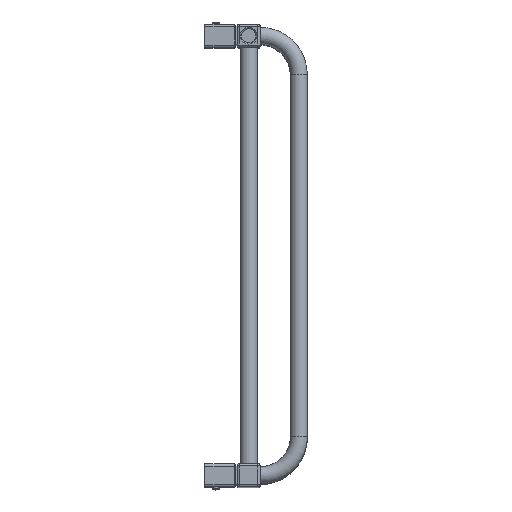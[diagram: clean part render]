
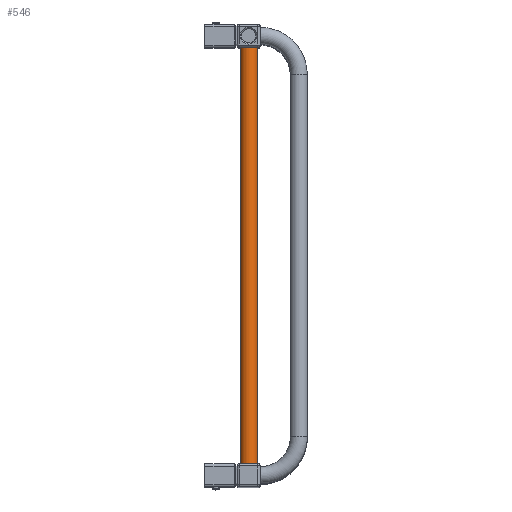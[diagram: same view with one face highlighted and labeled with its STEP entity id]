
A CAD part, top view. The second image highlights one B-rep face of the part: STEP entity #546.
In plain terms, the highlighted cylindrical face has radius 11 mm (diameter 22 mm), a full revolution.
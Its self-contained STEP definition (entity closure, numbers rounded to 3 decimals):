
#519=CARTESIAN_POINT('',(0.0,-270.0,590.));
#520=DIRECTION('',(0.0,1.0,0.0));
#521=DIRECTION('',(-1.0,0.0,0.0));
#522=AXIS2_PLACEMENT_3D('',#519,#520,#521);
#523=CYLINDRICAL_SURFACE('',#522,11.);
#524=CARTESIAN_POINT('',(11.,-270.0,590.));
#525=VERTEX_POINT('',#524);
#526=CARTESIAN_POINT('',(0.0,-270.0,590.));
#527=DIRECTION('',(0.0,-1.0,0.0));
#528=DIRECTION('',(-1.0,0.0,0.0));
#529=AXIS2_PLACEMENT_3D('',#526,#527,#528);
#530=CIRCLE('',#529,11.);
#531=EDGE_CURVE('',#525,#525,#530,.T.);
#532=ORIENTED_EDGE('',*,*,#531,.F.);
#533=EDGE_LOOP('',(#532));
#534=FACE_OUTER_BOUND('',#533,.T.);
#535=CARTESIAN_POINT('',(11.,270.0,590.));
#536=VERTEX_POINT('',#535);
#537=CARTESIAN_POINT('',(0.0,270.0,590.));
#538=DIRECTION('',(0.0,1.0,0.0));
#539=DIRECTION('',(-1.0,0.0,0.0));
#540=AXIS2_PLACEMENT_3D('',#537,#538,#539);
#541=CIRCLE('',#540,11.);
#542=EDGE_CURVE('',#536,#536,#541,.T.);
#543=ORIENTED_EDGE('',*,*,#542,.F.);
#544=EDGE_LOOP('',(#543));
#545=FACE_BOUND('',#544,.T.);
#546=ADVANCED_FACE('',(#534,#545),#523,.T.);
